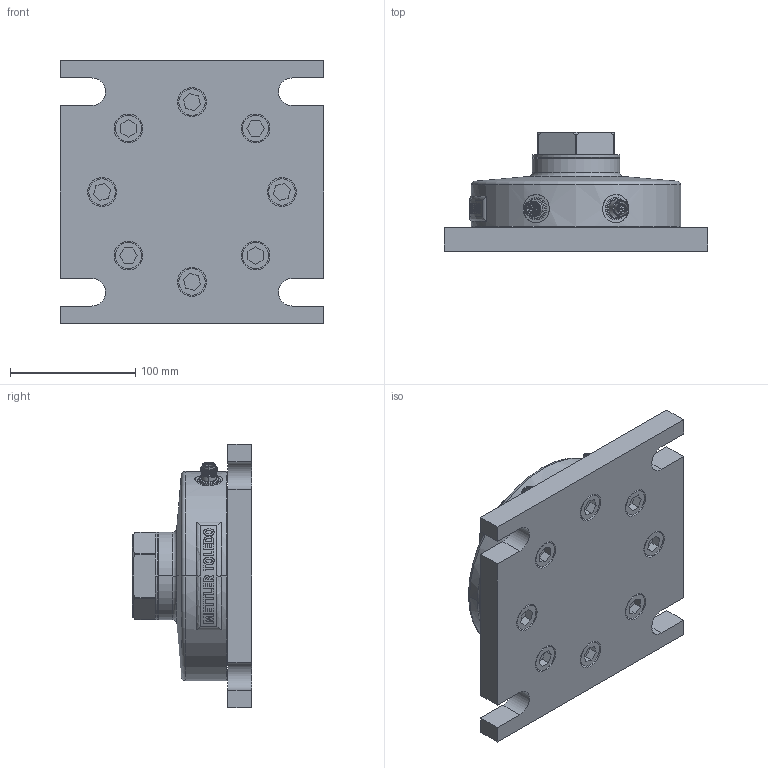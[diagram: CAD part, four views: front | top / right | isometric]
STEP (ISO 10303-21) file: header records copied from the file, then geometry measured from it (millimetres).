
FILE_DESCRIPTION((''),'2;1');
FILE_NAME('SLL210_10T_RECEIVER','2024-07-10T21:26:58',('wang-722'),(''),'CREO PARAMETRIC BY PTC INC, 2022014','CREO PARAMETRIC BY PTC INC, 2022014','');
FILE_SCHEMA(('CONFIG_CONTROL_DESIGN'));
Length unit declared in the file: millimetre
Products named in the file (1): SLL210_10T_RECEIVER
Bounding box: 210 x 95 x 210 mm (x, y, z)
Surface area: 174651.8 mm2 (no closed solid volume)
Topology: 0 solids, 24 shells, 345 faces, 1030 edges, 737 vertices
Faces by surface type: cylinder 143, plane 131, cone 36, bspline 21, torus 11, sphere 3
Entity records: 15259 total; most frequent: CARTESIAN_POINT 5801, DIRECTION 1981, ORIENTED_EDGE 1893, EDGE_CURVE 1027, AXIS2_PLACEMENT_3D 768, VERTEX_POINT 737, VECTOR 445, LINE 445
